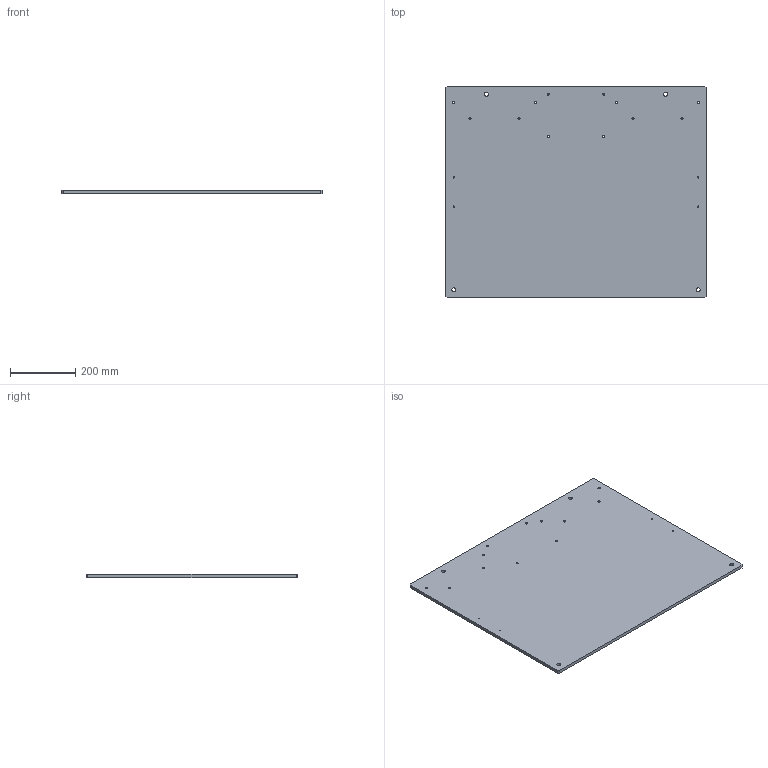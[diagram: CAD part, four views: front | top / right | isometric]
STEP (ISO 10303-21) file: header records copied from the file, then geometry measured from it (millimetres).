
FILE_DESCRIPTION(('CATIA V5 STEP Exchange'),'2;1');
FILE_NAME('D:\姚明阳\1、工装图纸\AG105\AG105.01_V1.stp','2024-04-30T05:12:03+00:00',('none'),('none'),'CATIA Version 5 Release 21 GA (IN-10)','CATIA V5 STEP AP214','none');
FILE_SCHEMA(('AUTOMOTIVE_DESIGN { 1 0 10303 214 1 1 1 1 }'));
Length unit declared in the file: millimetre
Products named in the file (1): Part1
Bounding box: 800 x 650 x 10 mm (x, y, z)
Volume: 5190440 mm3; surface area: 1071457 mm2
Topology: 1 solids, 1 shells, 50 faces, 144 edges, 96 vertices
Faces by surface type: cylinder 40, plane 10
Entity records: 1610 total; most frequent: ORIENTED_EDGE 288, CARTESIAN_POINT 271, DIRECTION 204, EDGE_CURVE 144, AXIS2_PLACEMENT_3D 111, VERTEX_POINT 96, EDGE_LOOP 90, CIRCLE 80
